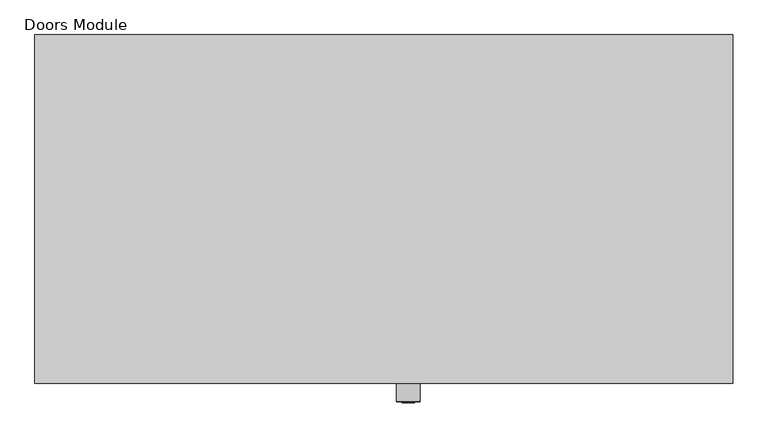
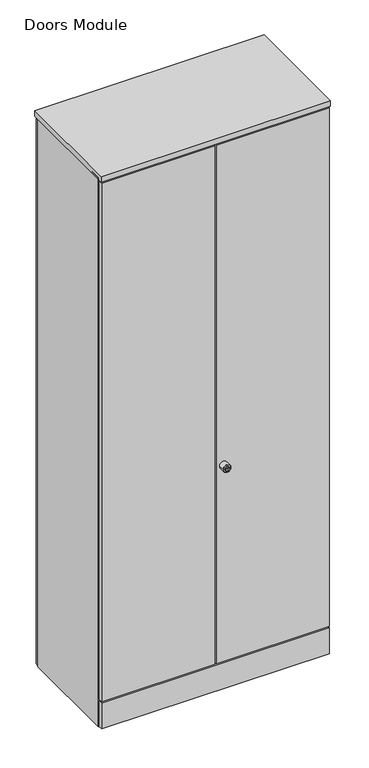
"""IFC4 building model written with IfcOpenShell, lengths in millimetres: furniture geometry, Furniture_Storage_Spacestor_SignatureStoragewall : Doors Module."""

from ifc_helpers import new_model, si_unit, point, frame, origin, origin_with_axes, place, context, project, spatial, polyline, circle_curve, ellipse_curve, trimmed, outline, extrude, source, transform, mapped, element, save
from ifc_brep_helpers import plane_surface, cylinder_surface, revolved_surface, advanced_brep


def doors_module_1eb81610(model_context):
    return source(origin(), model_context, "Body", "SolidModel", [
        extrude(outline(polyline([(996.5, 459.0), (3.5, 459.0), (3.5, 477.0), (996.5, 477.0), (996.5, 459.0)])), origin_with_axes(), (0.0, 0.0, 1.0), 2518.0),
        extrude(outline(polyline([(996.5, -18.0), (3.5, -18.0), (3.5, 0.0), (996.5, 0.0), (996.5, -18.0)])), origin_with_axes(), (0.0, 0.0, 1.0), 118.0),
        extrude(outline(polyline([(1000.0, -20.5), (0.0, -20.5), (0.0, 479.5), (1000.0, 479.5), (1000.0, -20.5)])), frame((0.0, 0.0, 2525.0), z_axis=(0.0, 0.0, 1.0), x_axis=(1.0, 0.0, 0.0)), (0.0, 0.0, 1.0), 25.5),
        extrude(outline(polyline([(1000.0, 0.0), (989.0, 0.0), (989.0, 459.0), (1000.0, 459.0), (1000.0, 0.0)])), origin_with_axes(), (0.0, 0.0, 1.0), 2532.5),
        extrude(outline(polyline([(11.0, 0.0), (0.0, 0.0), (0.0, 459.0), (11.0, 459.0), (11.0, 0.0)])), origin_with_axes(), (0.0, 0.0, 1.0), 2532.5),
        extrude(outline(polyline([(989.0, 0.0), (11.0, 0.0), (11.0, 459.0), (989.0, 459.0), (989.0, 0.0)])), frame((0.0, 0.0, 2023.0), z_axis=(0.0, 0.0, 1.0), x_axis=(1.0, 0.0, 0.0)), (0.0, 0.0, 1.0), 22.0),
        extrude(outline(polyline([(989.0, 0.0), (11.0, 0.0), (11.0, 459.0), (989.0, 459.0), (989.0, 0.0)])), frame((0.0, 0.0, 1639.0), z_axis=(0.0, 0.0, 1.0), x_axis=(1.0, 0.0, 0.0)), (0.0, 0.0, 1.0), 22.0),
        extrude(outline(polyline([(989.0, 0.0), (11.0, 0.0), (11.0, 459.0), (989.0, 459.0), (989.0, 0.0)])), frame((0.0, 0.0, 1255.0), z_axis=(0.0, 0.0, 1.0), x_axis=(1.0, 0.0, 0.0)), (0.0, 0.0, 1.0), 22.0),
        extrude(outline(polyline([(989.0, 0.0), (11.0, 0.0), (11.0, 459.0), (989.0, 459.0), (989.0, 0.0)])), frame((0.0, 0.0, 871.0), z_axis=(0.0, 0.0, 1.0), x_axis=(1.0, 0.0, 0.0)), (0.0, 0.0, 1.0), 22.0),
        extrude(outline(polyline([(989.0, 0.0), (11.0, 0.0), (11.0, 459.0), (989.0, 459.0), (989.0, 0.0)])), frame((0.0, 0.0, 487.0), z_axis=(0.0, 0.0, 1.0), x_axis=(1.0, 0.0, 0.0)), (0.0, 0.0, 1.0), 22.0),
        advanced_brep(
        [(552.0, -45.3116344, 1032.0), (518.0, -45.3116344, 1032.0), (518.0, -18.0, 1032.0), (552.0, -18.0, 1032.0), (535.0, -18.0, 1032.0), (543.9747319, -46.3150077, 1032.0), (526.0252681, -46.3150077, 1032.0), (519.0033734, -46.3150077, 1032.0), (550.9966266, -46.3150077, 1032.0), (543.9747319, -47.4703043, 1032.0), (526.0252681, -47.4703043, 1032.0), (539.8245152, -47.4703043, 1032.0), (539.8245152, -47.4703043, 1030.6366562), (530.1754848, -47.4703043, 1030.6366562), (530.1754848, -47.4703043, 1032.0), (530.1754848, -47.4703043, 1033.3633438), (539.8245152, -47.4703043, 1033.3633438), (530.1754848, -27.8604291, 1030.6366562), (539.8245152, -27.8604291, 1030.6366562), (539.8245152, -27.8604291, 1033.3633438), (530.1754848, -27.8604291, 1033.3633438)],
        [
            (0, 1, circle_curve(frame((535.0, -45.3116344, 1032.0), z_axis=(0.0, 1.0, 0.0), x_axis=(-1.0, 0.0, 0.0)), 17.0)),
            (1, 2),
            (2, 3, circle_curve(frame((535.0, -18.0, 1032.0), z_axis=(0.0, -1.0, 0.0), x_axis=(-1.0, 0.0, 0.0)), 17.0)),
            (3, 0),
            (1, 0, circle_curve(frame((535.0, -45.3116344, 1032.0), z_axis=(0.0, 1.0, 0.0), x_axis=(-1.0, 0.0, 0.0)), 17.0)),
            (3, 2, circle_curve(frame((535.0, -18.0, 1032.0), z_axis=(0.0, -1.0, 0.0), x_axis=(-1.0, 0.0, 0.0)), 17.0)),
            (2, 4),
            (4, 3),
            (5, 6, circle_curve(frame((535.0, -46.3150077, 1032.0), z_axis=(0.0, 1.0, 0.0), x_axis=(-1.0, 0.0, 0.0)), 8.9747319)),
            (6, 7),
            (7, 8, circle_curve(frame((535.0, -46.3150077, 1032.0), z_axis=(0.0, -1.0, 0.0), x_axis=(-1.0, 0.0, 0.0)), 15.9966266)),
            (8, 5),
            (6, 5, circle_curve(frame((535.0, -46.3150077, 1032.0), z_axis=(0.0, 1.0, 0.0), x_axis=(-1.0, 0.0, 0.0)), 8.9747319)),
            (8, 7, circle_curve(frame((535.0, -46.3150077, 1032.0), z_axis=(0.0, -1.0, 0.0), x_axis=(-1.0, 0.0, 0.0)), 15.9966266)),
            (0, 8, circle_curve(frame((550.9966266, -45.3116344, 1032.0), z_axis=(0.0, 0.0, -1.0), x_axis=(1.0, 0.0, 0.0)), 1.0033734)),
            (7, 1, circle_curve(frame((519.0033734, -45.3116344, 1032.0), z_axis=(0.0, 0.0, -1.0), x_axis=(-1.0, 0.0, 0.0)), 1.0033734)),
            (5, 9),
            (9, 10, circle_curve(frame((535.0, -47.4703043, 1032.0), z_axis=(0.0, 1.0, 0.0), x_axis=(-1.0, 0.0, 0.0)), 8.9747319)),
            (10, 6),
            (10, 9, circle_curve(frame((535.0, -47.4703043, 1032.0), z_axis=(0.0, 1.0, 0.0), x_axis=(-1.0, 0.0, 0.0)), 8.9747319)),
            (9, 11),
            (11, 12),
            (12, 13),
            (13, 14),
            (14, 10),
            (14, 15),
            (15, 16),
            (16, 11),
            (17, 18),
            (18, 19),
            (19, 20),
            (20, 17),
            (17, 13),
            (12, 18),
            (16, 19),
            (15, 20),
        ],
        [
            cylinder_surface(frame((535.0, -2627.0581012, 1032.0), z_axis=(0.0, -1.0, 0.0), x_axis=(-1.0, 0.0, 0.0)), 17.0),
            plane_surface(frame((535.0, -18.0, 1032.0), z_axis=(0.0, 1.0, 0.0), x_axis=(-1.0, 0.0, 0.0))),
            plane_surface(frame((535.0, -46.3150077, 1032.0), z_axis=(0.0, -1.0, 0.0), x_axis=(-1.0, 0.0, 0.0))),
            revolved_surface(trimmed(ellipse_curve(frame((519.0033734, -45.3116344, 1032.0), z_axis=(0.0, 0.0, 1.0), x_axis=(-1.0, 0.0, 0.0)), 1.0033734, 1.0033734), [point((518.0, -45.3116344, 1032.0))], [point((519.0033734, -46.3150077, 1032.0))], True, "CARTESIAN"), (535.0, -2627.0581012, 1032.0), (0.0, -1.0, 0.0)),
            cylinder_surface(frame((535.0, -2627.0581012, 1032.0), z_axis=(0.0, -1.0, 0.0), x_axis=(-1.0, 0.0, 0.0)), 8.9747319),
            plane_surface(frame((535.0, -47.4703043, 1032.0), z_axis=(0.0, -1.0, 0.0), x_axis=(-1.0, 0.0, 0.0))),
            plane_surface(frame((539.4565249, -27.8604291, 1030.6366562), z_axis=(0.0, -1.0, 0.0), x_axis=(-1.0, 0.0, 0.0))),
            plane_surface(frame((530.1754848, -49.2046383, 1030.6366562), z_axis=(0.0, 0.0, 1.0), x_axis=(0.0, 1.0, 0.0))),
            plane_surface(frame((539.8245152, -49.2046383, 1030.6366562), z_axis=(-1.0, 0.0, 0.0), x_axis=(0.0, 1.0, 0.0))),
            plane_surface(frame((539.8245152, -49.2046383, 1033.3633438), z_axis=(0.0, 0.0, -1.0), x_axis=(0.0, 1.0, 0.0))),
            plane_surface(frame((530.1754848, -49.2046383, 1033.3633438), z_axis=(1.0, 0.0, 0.0), x_axis=(0.0, 1.0, 0.0))),
        ],
        [
            (0, [[1, 2, 3, 4]]),
            (0, [[-2, 5, -4, 6]]),
            (1, [[-3, 7, 8]]),
            (1, [[-6, -8, -7]]),
            (2, [[9, 10, 11, 12]]),
            (2, [[-10, 13, -12, 14]]),
            (3, [[-1, 15, -11, 16]]),
            (3, [[-5, -16, -14, -15]]),
            (4, [[-9, 17, 18, 19]]),
            (4, [[-13, -19, 20, -17]]),
            (5, [[-18, 21, 22, 23, 24, 25]]),
            (5, [[-20, -25, 26, 27, 28, -21]]),
            (6, [[29, 30, 31, 32]]),
            (7, [[-29, 33, -23, 34]]),
            (8, [[-30, -34, -22, -28, 35]]),
            (9, [[-31, -35, -27, 36]]),
            (10, [[-32, -36, -26, -24, -33]]),
        ],
    ),
        extrude(outline(polyline([(3.5, -18.0), (3.5, 0.0), (496.5, 0.0), (496.5, -18.0), (3.5, -18.0)])), frame((0.0, 0.0, 125.0), z_axis=(0.0, 0.0, 1.0), x_axis=(1.0, 0.0, 0.0)), (0.0, 0.0, 1.0), 2393.0),
        extrude(outline(polyline([(996.5, -18.0), (503.5, -18.0), (503.5, 0.0), (996.5, 0.0), (996.5, -18.0)])), frame((0.0, 0.0, 125.0), z_axis=(0.0, 0.0, 1.0), x_axis=(1.0, 0.0, 0.0)), (0.0, 0.0, 1.0), 2393.0),
        extrude(outline(polyline([(989.0, 0.0), (11.0, 0.0), (11.0, 459.0), (989.0, 459.0), (989.0, 0.0)])), frame((0.0, 0.0, 110.5), z_axis=(0.0, 0.0, 1.0), x_axis=(1.0, 0.0, 0.0)), (0.0, 0.0, 1.0), 22.0),
        extrude(outline(polyline([(989.0, 0.0), (11.0, 0.0), (11.0, 459.0), (989.0, 459.0), (989.0, 0.0)])), frame((0.0, 0.0, 2510.0), z_axis=(0.0, 0.0, 1.0), x_axis=(1.0, 0.0, 0.0)), (0.0, 0.0, 1.0), 22.0),
    ])


if __name__ == "__main__":
    model = new_model("IFC4")
    model_context = context("Model", 3, world=origin())
    ifc_project = project(units=[si_unit("LENGTHUNIT", "METRE", prefix="MILLI")], contexts=[model_context])
    site = spatial("IfcSite", under=ifc_project)
    building = spatial("IfcBuilding", under=site)
    placement = place(None, origin())
    doors_module_shape = doors_module_1eb81610(model_context)
    element("IfcFurniture", 1, ObjectType="Furniture_Storage_Spacestor_SignatureStoragewall : Doors Module", at=placement, inside=building, context=model_context, shape_type="MappedRepresentation", body=[
        mapped(doors_module_shape, transform((0.0, 0.0, 0.0), x_axis=(1.0, 0.0, 0.0), y_axis=(0.0, 1.0, 0.0), z_axis=(0.0, 0.0, 1.0))),
    ])
    save(model, "model.ifc")
